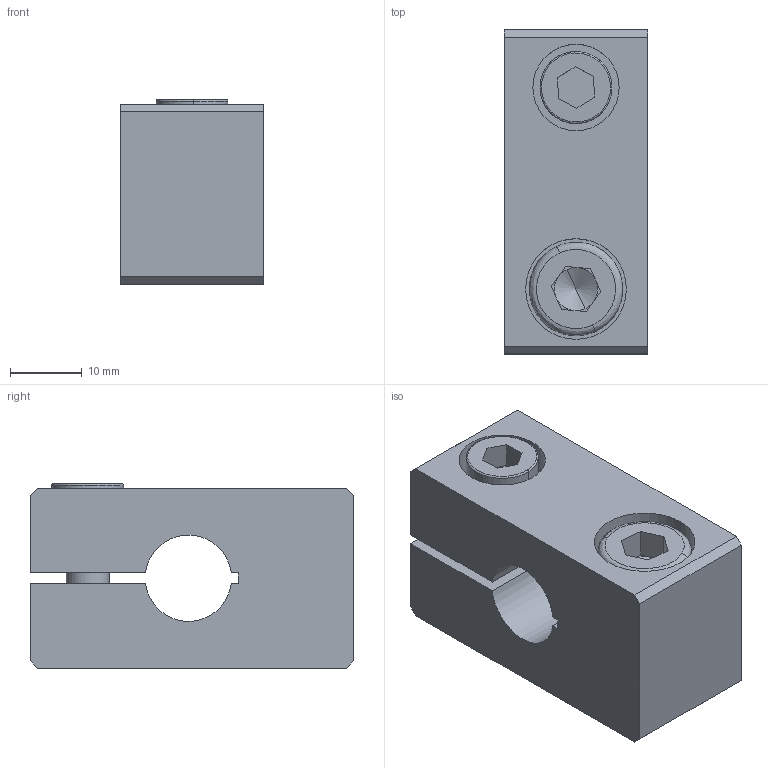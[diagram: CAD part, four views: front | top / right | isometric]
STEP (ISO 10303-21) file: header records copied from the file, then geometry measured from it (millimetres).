
FILE_DESCRIPTION (( 'STEP AP214' ), '1' );
FILE_NAME ('SMBH1-12M8.STEP', '2019-11-07T07:26:36', ( '微软用户' ), ( '微软中国' ), 'SwSTEP 2.0', 'SolidWorks 2016', '' );
FILE_SCHEMA (( 'AUTOMOTIVE_DESIGN' ));
Length unit declared in the file: millimetre
Products named in the file (1): SMBH1-12M8
Bounding box: 20 x 45 x 25.6 mm (x, y, z)
Volume: 18512.6 mm3; surface area: 9028.5 mm2
Topology: 4 solids, 4 shells, 223 faces, 620 edges, 407 vertices
Faces by surface type: plane 187, cylinder 24, cone 8, bspline 4
Entity records: 9732 total; most frequent: CARTESIAN_POINT 1333, DIRECTION 1256, ORIENTED_EDGE 1236, EDGE_CURVE 618, AXIS2_PLACEMENT_3D 426, VERTEX_POINT 407, LINE 404, VECTOR 404
